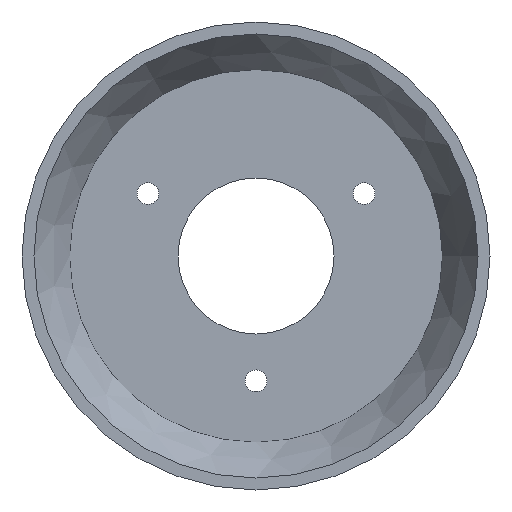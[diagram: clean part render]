
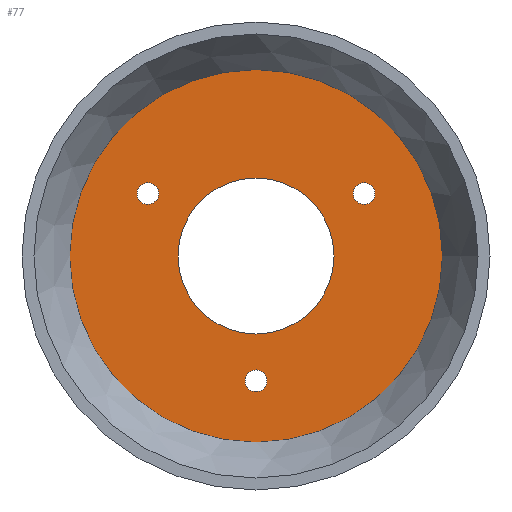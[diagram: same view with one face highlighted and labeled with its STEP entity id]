
A CAD part, front view. The second image highlights one B-rep face of the part: STEP entity #77.
In plain terms, the highlighted planar face has unit normal (0, -1, 0).
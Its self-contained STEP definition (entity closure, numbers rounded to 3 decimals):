
#77 = ADVANCED_FACE( '', ( #91, #92, #93, #94, #95 ), #96, .T. );
#91 = FACE_OUTER_BOUND( '', #124, .T. );
#92 = FACE_BOUND( '', #125, .T. );
#93 = FACE_BOUND( '', #126, .T. );
#94 = FACE_BOUND( '', #127, .T. );
#95 = FACE_BOUND( '', #128, .T. );
#96 = PLANE( '', #129 );
#124 = EDGE_LOOP( '', ( #161 ) );
#125 = EDGE_LOOP( '', ( #162 ) );
#126 = EDGE_LOOP( '', ( #163 ) );
#127 = EDGE_LOOP( '', ( #164 ) );
#128 = EDGE_LOOP( '', ( #165 ) );
#129 = AXIS2_PLACEMENT_3D( '', #166, #167, #168 );
#161 = ORIENTED_EDGE( '', *, *, #203, .T. );
#162 = ORIENTED_EDGE( '', *, *, #205, .T. );
#163 = ORIENTED_EDGE( '', *, *, #206, .T. );
#164 = ORIENTED_EDGE( '', *, *, #207, .T. );
#165 = ORIENTED_EDGE( '', *, *, #208, .F. );
#166 = CARTESIAN_POINT( '', ( 7.5, 6., 0. ) );
#167 = DIRECTION( '', ( 0., -1., 0. ) );
#168 = DIRECTION( '', ( 1., 0., 0. ) );
#203 = EDGE_CURVE( '', #216, #216, #217, .T. );
#205 = EDGE_CURVE( '', #220, #220, #221, .F. );
#206 = EDGE_CURVE( '', #222, #222, #223, .F. );
#207 = EDGE_CURVE( '', #224, #224, #225, .F. );
#208 = EDGE_CURVE( '', #226, #226, #227, .T. );
#216 = VERTEX_POINT( '', #240 );
#217 = CIRCLE( '', #241, 17.92 );
#220 = VERTEX_POINT( '', #244 );
#221 = CIRCLE( '', #245, 1.05 );
#222 = VERTEX_POINT( '', #246 );
#223 = CIRCLE( '', #247, 1.05 );
#224 = VERTEX_POINT( '', #248 );
#225 = CIRCLE( '', #249, 1.05 );
#226 = VERTEX_POINT( '', #250 );
#227 = CIRCLE( '', #251, 7.5 );
#240 = CARTESIAN_POINT( '', ( 17.92, 6., 0. ) );
#241 = AXIS2_PLACEMENT_3D( '', #265, #266, #267 );
#244 = CARTESIAN_POINT( '', ( 1.05, 6., -12. ) );
#245 = AXIS2_PLACEMENT_3D( '', #271, #272, #273 );
#246 = CARTESIAN_POINT( '', ( -9.342, 6., 6. ) );
#247 = AXIS2_PLACEMENT_3D( '', #274, #275, #276 );
#248 = CARTESIAN_POINT( '', ( 11.442, 6., 6. ) );
#249 = AXIS2_PLACEMENT_3D( '', #277, #278, #279 );
#250 = CARTESIAN_POINT( '', ( 7.5, 6., 0. ) );
#251 = AXIS2_PLACEMENT_3D( '', #280, #281, #282 );
#265 = CARTESIAN_POINT( '', ( 0., 6., 0. ) );
#266 = DIRECTION( '', ( 0., -1., 0. ) );
#267 = DIRECTION( '', ( 1., 0., 0. ) );
#271 = CARTESIAN_POINT( '', ( 0., 6., -12. ) );
#272 = DIRECTION( '', ( 0., -1., 0. ) );
#273 = DIRECTION( '', ( 1., 0., 0. ) );
#274 = CARTESIAN_POINT( '', ( -10.392, 6., 6. ) );
#275 = DIRECTION( '', ( 0., -1., 0. ) );
#276 = DIRECTION( '', ( 1., 0., 0. ) );
#277 = CARTESIAN_POINT( '', ( 10.392, 6., 6. ) );
#278 = DIRECTION( '', ( 0., -1., 0. ) );
#279 = DIRECTION( '', ( 1., 0., 0. ) );
#280 = CARTESIAN_POINT( '', ( 0., 6., 0. ) );
#281 = DIRECTION( '', ( 0., -1., 0. ) );
#282 = DIRECTION( '', ( 1., 0., 0. ) );
